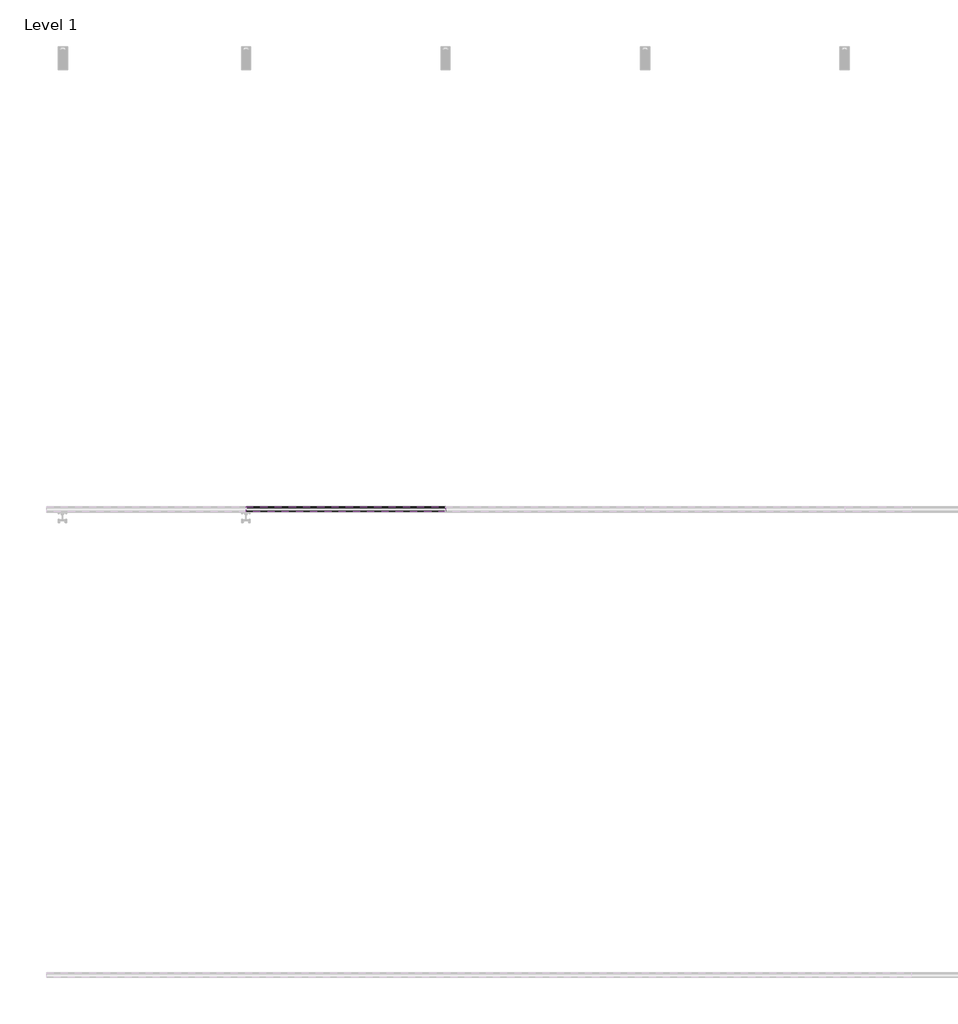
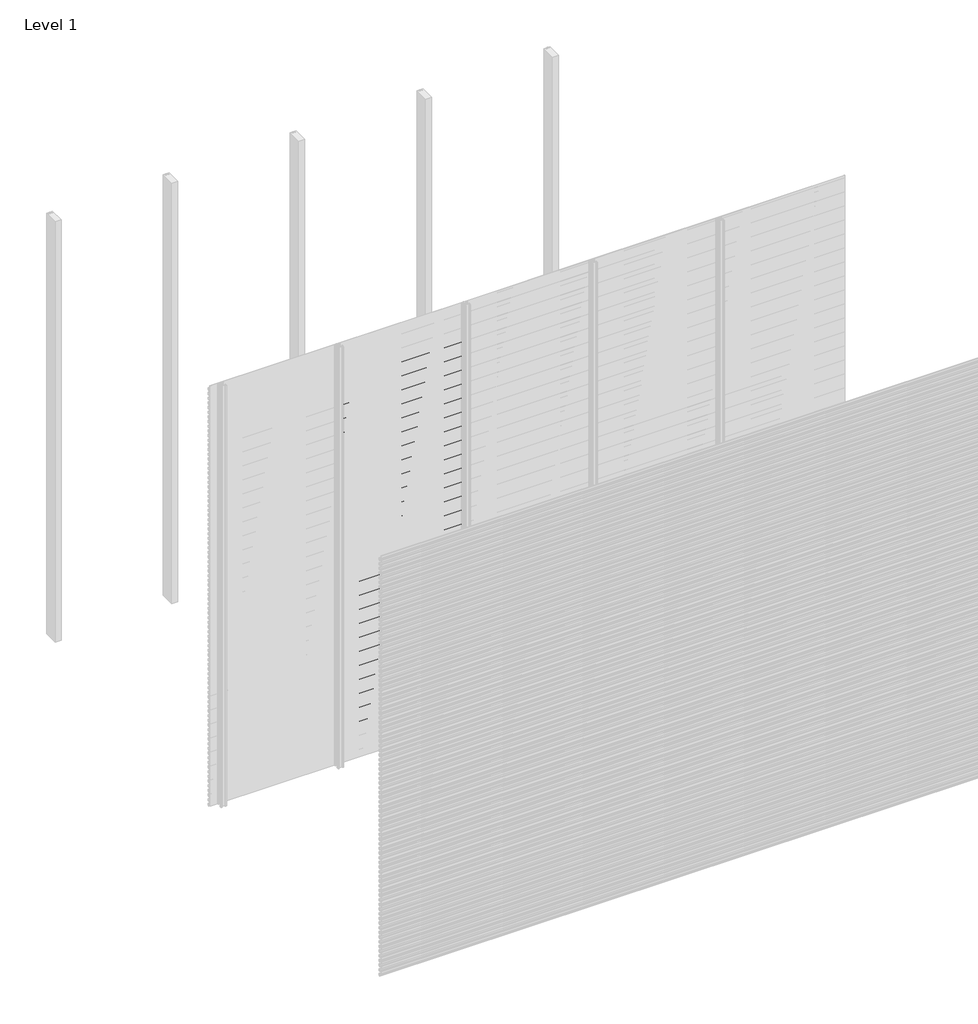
# One storey, part 25 of 96: 77 proxies.
"""IFC4 building model written with IfcOpenShell, lengths in millimetres."""

from ifc_helpers import new_model, si_unit, frame, origin, place, context, project, spatial, polyline, outline, extrude, element, save

model = new_model("IFC4")

# Units and contexts
model_context = context("Model", 3, world=origin())
ifc_project = project(units=[si_unit("LENGTHUNIT", "METRE", prefix="MILLI")], contexts=[model_context])

# Site, building, storey
site = spatial("IfcSite", under=ifc_project)
building = spatial("IfcBuilding", under=site)
storey = spatial("IfcBuildingStorey", under=building, Name="Level 1", Elevation=0.0)

# Proxies
placement = place(None, origin())
element("IfcBuildingElementProxy", 1, Name="Wall Sweeps", at=placement, inside=storey, context=model_context, shape_type="SweptSolid", body=[
    extrude(outline(polyline([(-41977.6, 2771.9655033), (-41977.6, 2757.6779188), (-41982.4114965, 2754.9), (-41982.4114965, 2756.1701706), (-41978.85, 2758.2264016), (-41978.85, 2771.2437382), (-41998.0, 2782.3000799), (-41998.0, 2797.2), (-41996.75, 2797.2), (-41996.75, 2783.0217609), (-41977.6, 2771.9655033)])), frame((857.1428571, 0.0, 0.0), z_axis=(1.0, 0.0, 0.0), x_axis=(0.0, 1.0, 0.0)), (0.0, 0.0, 1.0), 857.1428571),
])
element("IfcBuildingElementProxy", 2, Name="Wall Sweeps", at=placement, inside=storey, context=model_context, shape_type="SweptSolid", body=[
    extrude(outline(polyline([(-41977.6, 2738.6655033), (-41977.6, 2724.3779188), (-41982.4114965, 2721.6), (-41982.4114965, 2722.8701706), (-41978.85, 2724.9264016), (-41978.85, 2737.9437382), (-41998.0, 2749.0000799), (-41998.0, 2763.9), (-41996.75, 2763.9), (-41996.75, 2749.7217609), (-41977.6, 2738.6655033)])), frame((857.1428571, 0.0, 0.0), z_axis=(1.0, 0.0, 0.0), x_axis=(0.0, 1.0, 0.0)), (0.0, 0.0, 1.0), 857.1428571),
])
element("IfcBuildingElementProxy", 3, Name="Wall Sweeps", at=placement, inside=storey, context=model_context, shape_type="SweptSolid", body=[
    extrude(outline(polyline([(-41977.6, 2705.3655033), (-41977.6, 2691.0779188), (-41982.4114965, 2688.3), (-41982.4114965, 2689.5701706), (-41978.85, 2691.6264016), (-41978.85, 2704.6437382), (-41998.0, 2715.7000799), (-41998.0, 2730.6), (-41996.75, 2730.6), (-41996.75, 2716.4217609), (-41977.6, 2705.3655033)])), frame((857.1428571, 0.0, 0.0), z_axis=(1.0, 0.0, 0.0), x_axis=(0.0, 1.0, 0.0)), (0.0, 0.0, 1.0), 857.1428571),
])
element("IfcBuildingElementProxy", 4, Name="Wall Sweeps", at=placement, inside=storey, context=model_context, shape_type="SweptSolid", body=[
    extrude(outline(polyline([(-41977.6, 2672.0655033), (-41977.6, 2657.7779188), (-41982.4114965, 2655.0), (-41982.4114965, 2656.2701706), (-41978.85, 2658.3264016), (-41978.85, 2671.3437382), (-41998.0, 2682.4000799), (-41998.0, 2697.3), (-41996.75, 2697.3), (-41996.75, 2683.1217609), (-41977.6, 2672.0655033)])), frame((857.1428571, 0.0, 0.0), z_axis=(1.0, 0.0, 0.0), x_axis=(0.0, 1.0, 0.0)), (0.0, 0.0, 1.0), 857.1428571),
])
element("IfcBuildingElementProxy", 5, Name="Wall Sweeps", at=placement, inside=storey, context=model_context, shape_type="SweptSolid", body=[
    extrude(outline(polyline([(-41977.6, 2638.7655033), (-41977.6, 2624.4779188), (-41982.4114965, 2621.7), (-41982.4114965, 2622.9701706), (-41978.85, 2625.0264016), (-41978.85, 2638.0437382), (-41998.0, 2649.1000799), (-41998.0, 2664.0), (-41996.75, 2664.0), (-41996.75, 2649.8217609), (-41977.6, 2638.7655033)])), frame((857.1428571, 0.0, 0.0), z_axis=(1.0, 0.0, 0.0), x_axis=(0.0, 1.0, 0.0)), (0.0, 0.0, 1.0), 857.1428571),
])
element("IfcBuildingElementProxy", 6, Name="Wall Sweeps", at=placement, inside=storey, context=model_context, shape_type="SweptSolid", body=[
    extrude(outline(polyline([(-41977.6, 2605.4655033), (-41977.6, 2591.1779188), (-41982.4114965, 2588.4), (-41982.4114965, 2589.6701706), (-41978.85, 2591.7264016), (-41978.85, 2604.7437382), (-41998.0, 2615.8000799), (-41998.0, 2630.7), (-41996.75, 2630.7), (-41996.75, 2616.5217609), (-41977.6, 2605.4655033)])), frame((857.1428571, 0.0, 0.0), z_axis=(1.0, 0.0, 0.0), x_axis=(0.0, 1.0, 0.0)), (0.0, 0.0, 1.0), 857.1428571),
])
element("IfcBuildingElementProxy", 7, Name="Wall Sweeps", at=placement, inside=storey, context=model_context, shape_type="SweptSolid", body=[
    extrude(outline(polyline([(-41977.6, 2572.1655033), (-41977.6, 2557.8779188), (-41982.4114965, 2555.1), (-41982.4114965, 2556.3701706), (-41978.85, 2558.4264016), (-41978.85, 2571.4437382), (-41998.0, 2582.5000799), (-41998.0, 2597.4), (-41996.75, 2597.4), (-41996.75, 2583.2217609), (-41977.6, 2572.1655033)])), frame((857.1428571, 0.0, 0.0), z_axis=(1.0, 0.0, 0.0), x_axis=(0.0, 1.0, 0.0)), (0.0, 0.0, 1.0), 857.1428571),
])
element("IfcBuildingElementProxy", 8, Name="Wall Sweeps", at=placement, inside=storey, context=model_context, shape_type="SweptSolid", body=[
    extrude(outline(polyline([(-41977.6, 2538.8655033), (-41977.6, 2524.5779188), (-41982.4114965, 2521.8), (-41982.4114965, 2523.0701706), (-41978.85, 2525.1264016), (-41978.85, 2538.1437382), (-41998.0, 2549.2000799), (-41998.0, 2564.1), (-41996.75, 2564.1), (-41996.75, 2549.9217609), (-41977.6, 2538.8655033)])), frame((857.1428571, 0.0, 0.0), z_axis=(1.0, 0.0, 0.0), x_axis=(0.0, 1.0, 0.0)), (0.0, 0.0, 1.0), 857.1428571),
])
element("IfcBuildingElementProxy", 9, Name="Wall Sweeps", at=placement, inside=storey, context=model_context, shape_type="SweptSolid", body=[
    extrude(outline(polyline([(-41977.6, 2505.5655033), (-41977.6, 2491.2779188), (-41982.4114965, 2488.5), (-41982.4114965, 2489.7701706), (-41978.85, 2491.8264016), (-41978.85, 2504.8437382), (-41998.0, 2515.9000799), (-41998.0, 2530.8), (-41996.75, 2530.8), (-41996.75, 2516.6217609), (-41977.6, 2505.5655033)])), frame((857.1428571, 0.0, 0.0), z_axis=(1.0, 0.0, 0.0), x_axis=(0.0, 1.0, 0.0)), (0.0, 0.0, 1.0), 857.1428571),
])
element("IfcBuildingElementProxy", 10, Name="Wall Sweeps", at=placement, inside=storey, context=model_context, shape_type="SweptSolid", body=[
    extrude(outline(polyline([(-41977.6, 2472.2655033), (-41977.6, 2457.9779188), (-41982.4114965, 2455.2), (-41982.4114965, 2456.4701706), (-41978.85, 2458.5264016), (-41978.85, 2471.5437382), (-41998.0, 2482.6000799), (-41998.0, 2497.5), (-41996.75, 2497.5), (-41996.75, 2483.3217609), (-41977.6, 2472.2655033)])), frame((857.1428571, 0.0, 0.0), z_axis=(1.0, 0.0, 0.0), x_axis=(0.0, 1.0, 0.0)), (0.0, 0.0, 1.0), 857.1428571),
])
element("IfcBuildingElementProxy", 11, Name="Wall Sweeps", at=placement, inside=storey, context=model_context, shape_type="SweptSolid", body=[
    extrude(outline(polyline([(-41977.6, 2438.9655033), (-41977.6, 2424.6779188), (-41982.4114965, 2421.9), (-41982.4114965, 2423.1701706), (-41978.85, 2425.2264016), (-41978.85, 2438.2437382), (-41998.0, 2449.3000799), (-41998.0, 2464.2), (-41996.75, 2464.2), (-41996.75, 2450.0217609), (-41977.6, 2438.9655033)])), frame((857.1428571, 0.0, 0.0), z_axis=(1.0, 0.0, 0.0), x_axis=(0.0, 1.0, 0.0)), (0.0, 0.0, 1.0), 857.1428571),
])
element("IfcBuildingElementProxy", 12, Name="Wall Sweeps", at=placement, inside=storey, context=model_context, shape_type="SweptSolid", body=[
    extrude(outline(polyline([(-41977.6, 2405.6655033), (-41977.6, 2391.3779188), (-41982.4114965, 2388.6), (-41982.4114965, 2389.8701706), (-41978.85, 2391.9264016), (-41978.85, 2404.9437382), (-41998.0, 2416.0000799), (-41998.0, 2430.9), (-41996.75, 2430.9), (-41996.75, 2416.7217609), (-41977.6, 2405.6655033)])), frame((857.1428571, 0.0, 0.0), z_axis=(1.0, 0.0, 0.0), x_axis=(0.0, 1.0, 0.0)), (0.0, 0.0, 1.0), 857.1428571),
])
element("IfcBuildingElementProxy", 13, Name="Wall Sweeps", at=placement, inside=storey, context=model_context, shape_type="SweptSolid", body=[
    extrude(outline(polyline([(-41977.6, 2372.3655033), (-41977.6, 2358.0779188), (-41982.4114965, 2355.3), (-41982.4114965, 2356.5701706), (-41978.85, 2358.6264016), (-41978.85, 2371.6437382), (-41998.0, 2382.7000799), (-41998.0, 2397.6), (-41996.75, 2397.6), (-41996.75, 2383.4217609), (-41977.6, 2372.3655033)])), frame((857.1428571, 0.0, 0.0), z_axis=(1.0, 0.0, 0.0), x_axis=(0.0, 1.0, 0.0)), (0.0, 0.0, 1.0), 857.1428571),
])
element("IfcBuildingElementProxy", 14, Name="Wall Sweeps", at=placement, inside=storey, context=model_context, shape_type="SweptSolid", body=[
    extrude(outline(polyline([(-41977.6, 2339.0655033), (-41977.6, 2324.7779188), (-41982.4114965, 2322.0), (-41982.4114965, 2323.2701706), (-41978.85, 2325.3264016), (-41978.85, 2338.3437382), (-41998.0, 2349.4000799), (-41998.0, 2364.3), (-41996.75, 2364.3), (-41996.75, 2350.1217609), (-41977.6, 2339.0655033)])), frame((857.1428571, 0.0, 0.0), z_axis=(1.0, 0.0, 0.0), x_axis=(0.0, 1.0, 0.0)), (0.0, 0.0, 1.0), 857.1428571),
])
element("IfcBuildingElementProxy", 15, Name="Wall Sweeps", at=placement, inside=storey, context=model_context, shape_type="SweptSolid", body=[
    extrude(outline(polyline([(-41977.6, 2305.7655033), (-41977.6, 2291.4779188), (-41982.4114965, 2288.7), (-41982.4114965, 2289.9701706), (-41978.85, 2292.0264016), (-41978.85, 2305.0437382), (-41998.0, 2316.1000799), (-41998.0, 2331.0), (-41996.75, 2331.0), (-41996.75, 2316.8217609), (-41977.6, 2305.7655033)])), frame((857.1428571, 0.0, 0.0), z_axis=(1.0, 0.0, 0.0), x_axis=(0.0, 1.0, 0.0)), (0.0, 0.0, 1.0), 857.1428571),
])
element("IfcBuildingElementProxy", 16, Name="Wall Sweeps", at=placement, inside=storey, context=model_context, shape_type="SweptSolid", body=[
    extrude(outline(polyline([(-41977.6, 2272.4655033), (-41977.6, 2258.1779188), (-41982.4114965, 2255.4), (-41982.4114965, 2256.6701706), (-41978.85, 2258.7264016), (-41978.85, 2271.7437382), (-41998.0, 2282.8000799), (-41998.0, 2297.7), (-41996.75, 2297.7), (-41996.75, 2283.5217609), (-41977.6, 2272.4655033)])), frame((857.1428571, 0.0, 0.0), z_axis=(1.0, 0.0, 0.0), x_axis=(0.0, 1.0, 0.0)), (0.0, 0.0, 1.0), 857.1428571),
])
element("IfcBuildingElementProxy", 17, Name="Wall Sweeps", at=placement, inside=storey, context=model_context, shape_type="SweptSolid", body=[
    extrude(outline(polyline([(-41977.6, 2239.1655033), (-41977.6, 2224.8779188), (-41982.4114965, 2222.1), (-41982.4114965, 2223.3701706), (-41978.85, 2225.4264016), (-41978.85, 2238.4437382), (-41998.0, 2249.5000799), (-41998.0, 2264.4), (-41996.75, 2264.4), (-41996.75, 2250.2217609), (-41977.6, 2239.1655033)])), frame((857.1428571, 0.0, 0.0), z_axis=(1.0, 0.0, 0.0), x_axis=(0.0, 1.0, 0.0)), (0.0, 0.0, 1.0), 857.1428571),
])
element("IfcBuildingElementProxy", 18, Name="Wall Sweeps", at=placement, inside=storey, context=model_context, shape_type="SweptSolid", body=[
    extrude(outline(polyline([(-41977.6, 2205.8655033), (-41977.6, 2191.5779188), (-41982.4114965, 2188.8), (-41982.4114965, 2190.0701706), (-41978.85, 2192.1264016), (-41978.85, 2205.1437382), (-41998.0, 2216.2000799), (-41998.0, 2231.1), (-41996.75, 2231.1), (-41996.75, 2216.9217609), (-41977.6, 2205.8655033)])), frame((857.1428571, 0.0, 0.0), z_axis=(1.0, 0.0, 0.0), x_axis=(0.0, 1.0, 0.0)), (0.0, 0.0, 1.0), 857.1428571),
])
element("IfcBuildingElementProxy", 19, Name="Wall Sweeps", at=placement, inside=storey, context=model_context, shape_type="SweptSolid", body=[
    extrude(outline(polyline([(-41977.6, 2172.5655033), (-41977.6, 2158.2779188), (-41982.4114965, 2155.5), (-41982.4114965, 2156.7701706), (-41978.85, 2158.8264016), (-41978.85, 2171.8437382), (-41998.0, 2182.9000799), (-41998.0, 2197.8), (-41996.75, 2197.8), (-41996.75, 2183.6217609), (-41977.6, 2172.5655033)])), frame((857.1428571, 0.0, 0.0), z_axis=(1.0, 0.0, 0.0), x_axis=(0.0, 1.0, 0.0)), (0.0, 0.0, 1.0), 857.1428571),
])
element("IfcBuildingElementProxy", 20, Name="Wall Sweeps", at=placement, inside=storey, context=model_context, shape_type="SweptSolid", body=[
    extrude(outline(polyline([(-41977.6, 2139.2655033), (-41977.6, 2124.9779188), (-41982.4114965, 2122.2), (-41982.4114965, 2123.4701706), (-41978.85, 2125.5264016), (-41978.85, 2138.5437382), (-41998.0, 2149.6000799), (-41998.0, 2164.5), (-41996.75, 2164.5), (-41996.75, 2150.3217609), (-41977.6, 2139.2655033)])), frame((857.1428571, 0.0, 0.0), z_axis=(1.0, 0.0, 0.0), x_axis=(0.0, 1.0, 0.0)), (0.0, 0.0, 1.0), 857.1428571),
])
element("IfcBuildingElementProxy", 21, Name="Wall Sweeps", at=placement, inside=storey, context=model_context, shape_type="SweptSolid", body=[
    extrude(outline(polyline([(-41977.6, 2105.9655033), (-41977.6, 2091.6779188), (-41982.4114965, 2088.9), (-41982.4114965, 2090.1701706), (-41978.85, 2092.2264016), (-41978.85, 2105.2437382), (-41998.0, 2116.3000799), (-41998.0, 2131.2), (-41996.75, 2131.2), (-41996.75, 2117.0217609), (-41977.6, 2105.9655033)])), frame((857.1428571, 0.0, 0.0), z_axis=(1.0, 0.0, 0.0), x_axis=(0.0, 1.0, 0.0)), (0.0, 0.0, 1.0), 857.1428571),
])
element("IfcBuildingElementProxy", 22, Name="Wall Sweeps", at=placement, inside=storey, context=model_context, shape_type="SweptSolid", body=[
    extrude(outline(polyline([(-41977.6, 2072.6655033), (-41977.6, 2058.3779188), (-41982.4114965, 2055.6), (-41982.4114965, 2056.8701706), (-41978.85, 2058.9264016), (-41978.85, 2071.9437382), (-41998.0, 2083.0000799), (-41998.0, 2097.9), (-41996.75, 2097.9), (-41996.75, 2083.7217609), (-41977.6, 2072.6655033)])), frame((857.1428571, 0.0, 0.0), z_axis=(1.0, 0.0, 0.0), x_axis=(0.0, 1.0, 0.0)), (0.0, 0.0, 1.0), 857.1428571),
])
element("IfcBuildingElementProxy", 23, Name="Wall Sweeps", at=placement, inside=storey, context=model_context, shape_type="SweptSolid", body=[
    extrude(outline(polyline([(-41977.6, 2039.3655033), (-41977.6, 2025.0779188), (-41982.4114965, 2022.3), (-41982.4114965, 2023.5701706), (-41978.85, 2025.6264016), (-41978.85, 2038.6437382), (-41998.0, 2049.7000799), (-41998.0, 2064.6), (-41996.75, 2064.6), (-41996.75, 2050.4217609), (-41977.6, 2039.3655033)])), frame((857.1428571, 0.0, 0.0), z_axis=(1.0, 0.0, 0.0), x_axis=(0.0, 1.0, 0.0)), (0.0, 0.0, 1.0), 857.1428571),
])
element("IfcBuildingElementProxy", 24, Name="Wall Sweeps", at=placement, inside=storey, context=model_context, shape_type="SweptSolid", body=[
    extrude(outline(polyline([(-41977.6, 2006.0655033), (-41977.6, 1991.7779188), (-41982.4114965, 1989.0), (-41982.4114965, 1990.2701706), (-41978.85, 1992.3264016), (-41978.85, 2005.3437382), (-41998.0, 2016.4000799), (-41998.0, 2031.3), (-41996.75, 2031.3), (-41996.75, 2017.1217609), (-41977.6, 2006.0655033)])), frame((857.1428571, 0.0, 0.0), z_axis=(1.0, 0.0, 0.0), x_axis=(0.0, 1.0, 0.0)), (0.0, 0.0, 1.0), 857.1428571),
])
element("IfcBuildingElementProxy", 25, Name="Wall Sweeps", at=placement, inside=storey, context=model_context, shape_type="SweptSolid", body=[
    extrude(outline(polyline([(-41977.6, 1972.7655033), (-41977.6, 1958.4779188), (-41982.4114965, 1955.7), (-41982.4114965, 1956.9701706), (-41978.85, 1959.0264016), (-41978.85, 1972.0437382), (-41998.0, 1983.1000799), (-41998.0, 1998.0), (-41996.75, 1998.0), (-41996.75, 1983.8217609), (-41977.6, 1972.7655033)])), frame((857.1428571, 0.0, 0.0), z_axis=(1.0, 0.0, 0.0), x_axis=(0.0, 1.0, 0.0)), (0.0, 0.0, 1.0), 857.1428571),
])
element("IfcBuildingElementProxy", 26, Name="Wall Sweeps", at=placement, inside=storey, context=model_context, shape_type="SweptSolid", body=[
    extrude(outline(polyline([(-41977.6, 1939.4655033), (-41977.6, 1925.1779188), (-41982.4114965, 1922.4), (-41982.4114965, 1923.6701706), (-41978.85, 1925.7264016), (-41978.85, 1938.7437382), (-41998.0, 1949.8000799), (-41998.0, 1964.7), (-41996.75, 1964.7), (-41996.75, 1950.5217609), (-41977.6, 1939.4655033)])), frame((857.1428571, 0.0, 0.0), z_axis=(1.0, 0.0, 0.0), x_axis=(0.0, 1.0, 0.0)), (0.0, 0.0, 1.0), 857.1428571),
])
element("IfcBuildingElementProxy", 27, Name="Wall Sweeps", at=placement, inside=storey, context=model_context, shape_type="SweptSolid", body=[
    extrude(outline(polyline([(-41977.6, 1906.1655033), (-41977.6, 1891.8779188), (-41982.4114965, 1889.1), (-41982.4114965, 1890.3701706), (-41978.85, 1892.4264016), (-41978.85, 1905.4437382), (-41998.0, 1916.5000799), (-41998.0, 1931.4), (-41996.75, 1931.4), (-41996.75, 1917.2217609), (-41977.6, 1906.1655033)])), frame((857.1428571, 0.0, 0.0), z_axis=(1.0, 0.0, 0.0), x_axis=(0.0, 1.0, 0.0)), (0.0, 0.0, 1.0), 857.1428571),
])
element("IfcBuildingElementProxy", 28, Name="Wall Sweeps", at=placement, inside=storey, context=model_context, shape_type="SweptSolid", body=[
    extrude(outline(polyline([(-41977.6, 1872.8655033), (-41977.6, 1858.5779188), (-41982.4114965, 1855.8), (-41982.4114965, 1857.0701706), (-41978.85, 1859.1264016), (-41978.85, 1872.1437382), (-41998.0, 1883.2000799), (-41998.0, 1898.1), (-41996.75, 1898.1), (-41996.75, 1883.9217609), (-41977.6, 1872.8655033)])), frame((857.1428571, 0.0, 0.0), z_axis=(1.0, 0.0, 0.0), x_axis=(0.0, 1.0, 0.0)), (0.0, 0.0, 1.0), 857.1428571),
])
element("IfcBuildingElementProxy", 29, Name="Wall Sweeps", at=placement, inside=storey, context=model_context, shape_type="SweptSolid", body=[
    extrude(outline(polyline([(-41977.6, 1839.5655033), (-41977.6, 1825.2779188), (-41982.4114965, 1822.5), (-41982.4114965, 1823.7701706), (-41978.85, 1825.8264016), (-41978.85, 1838.8437382), (-41998.0, 1849.9000799), (-41998.0, 1864.8), (-41996.75, 1864.8), (-41996.75, 1850.6217609), (-41977.6, 1839.5655033)])), frame((857.1428571, 0.0, 0.0), z_axis=(1.0, 0.0, 0.0), x_axis=(0.0, 1.0, 0.0)), (0.0, 0.0, 1.0), 857.1428571),
])
element("IfcBuildingElementProxy", 30, Name="Wall Sweeps", at=placement, inside=storey, context=model_context, shape_type="SweptSolid", body=[
    extrude(outline(polyline([(-41977.6, 1806.2655033), (-41977.6, 1791.9779188), (-41982.4114965, 1789.2), (-41982.4114965, 1790.4701706), (-41978.85, 1792.5264016), (-41978.85, 1805.5437382), (-41998.0, 1816.6000799), (-41998.0, 1831.5), (-41996.75, 1831.5), (-41996.75, 1817.3217609), (-41977.6, 1806.2655033)])), frame((857.1428571, 0.0, 0.0), z_axis=(1.0, 0.0, 0.0), x_axis=(0.0, 1.0, 0.0)), (0.0, 0.0, 1.0), 857.1428571),
])
element("IfcBuildingElementProxy", 31, Name="Wall Sweeps", at=placement, inside=storey, context=model_context, shape_type="SweptSolid", body=[
    extrude(outline(polyline([(-41977.6, 1772.9655033), (-41977.6, 1758.6779188), (-41982.4114965, 1755.9), (-41982.4114965, 1757.1701706), (-41978.85, 1759.2264016), (-41978.85, 1772.2437382), (-41998.0, 1783.3000799), (-41998.0, 1798.2), (-41996.75, 1798.2), (-41996.75, 1784.0217609), (-41977.6, 1772.9655033)])), frame((857.1428571, 0.0, 0.0), z_axis=(1.0, 0.0, 0.0), x_axis=(0.0, 1.0, 0.0)), (0.0, 0.0, 1.0), 857.1428571),
])
element("IfcBuildingElementProxy", 32, Name="Wall Sweeps", at=placement, inside=storey, context=model_context, shape_type="SweptSolid", body=[
    extrude(outline(polyline([(-41977.6, 1739.6655033), (-41977.6, 1725.3779188), (-41982.4114965, 1722.6), (-41982.4114965, 1723.8701706), (-41978.85, 1725.9264016), (-41978.85, 1738.9437382), (-41998.0, 1750.0000799), (-41998.0, 1764.9), (-41996.75, 1764.9), (-41996.75, 1750.7217609), (-41977.6, 1739.6655033)])), frame((857.1428571, 0.0, 0.0), z_axis=(1.0, 0.0, 0.0), x_axis=(0.0, 1.0, 0.0)), (0.0, 0.0, 1.0), 857.1428571),
])
element("IfcBuildingElementProxy", 33, Name="Wall Sweeps", at=placement, inside=storey, context=model_context, shape_type="SweptSolid", body=[
    extrude(outline(polyline([(-41977.6, 1706.3655033), (-41977.6, 1692.0779188), (-41982.4114965, 1689.3), (-41982.4114965, 1690.5701706), (-41978.85, 1692.6264016), (-41978.85, 1705.6437382), (-41998.0, 1716.7000799), (-41998.0, 1731.6), (-41996.75, 1731.6), (-41996.75, 1717.4217609), (-41977.6, 1706.3655033)])), frame((857.1428571, 0.0, 0.0), z_axis=(1.0, 0.0, 0.0), x_axis=(0.0, 1.0, 0.0)), (0.0, 0.0, 1.0), 857.1428571),
])
element("IfcBuildingElementProxy", 34, Name="Wall Sweeps", at=placement, inside=storey, context=model_context, shape_type="SweptSolid", body=[
    extrude(outline(polyline([(-41977.6, 1673.0655033), (-41977.6, 1658.7779188), (-41982.4114965, 1656.0), (-41982.4114965, 1657.2701706), (-41978.85, 1659.3264016), (-41978.85, 1672.3437382), (-41998.0, 1683.4000799), (-41998.0, 1698.3), (-41996.75, 1698.3), (-41996.75, 1684.1217609), (-41977.6, 1673.0655033)])), frame((857.1428571, 0.0, 0.0), z_axis=(1.0, 0.0, 0.0), x_axis=(0.0, 1.0, 0.0)), (0.0, 0.0, 1.0), 857.1428571),
])
element("IfcBuildingElementProxy", 35, Name="Wall Sweeps", at=placement, inside=storey, context=model_context, shape_type="SweptSolid", body=[
    extrude(outline(polyline([(-41977.6, 1639.7655033), (-41977.6, 1625.4779188), (-41982.4114965, 1622.7), (-41982.4114965, 1623.9701706), (-41978.85, 1626.0264016), (-41978.85, 1639.0437382), (-41998.0, 1650.1000799), (-41998.0, 1665.0), (-41996.75, 1665.0), (-41996.75, 1650.8217609), (-41977.6, 1639.7655033)])), frame((857.1428571, 0.0, 0.0), z_axis=(1.0, 0.0, 0.0), x_axis=(0.0, 1.0, 0.0)), (0.0, 0.0, 1.0), 857.1428571),
])
element("IfcBuildingElementProxy", 36, Name="Wall Sweeps", at=placement, inside=storey, context=model_context, shape_type="SweptSolid", body=[
    extrude(outline(polyline([(-41977.6, 1606.4655033), (-41977.6, 1592.1779188), (-41982.4114965, 1589.4), (-41982.4114965, 1590.6701706), (-41978.85, 1592.7264016), (-41978.85, 1605.7437382), (-41998.0, 1616.8000799), (-41998.0, 1631.7), (-41996.75, 1631.7), (-41996.75, 1617.5217609), (-41977.6, 1606.4655033)])), frame((857.1428571, 0.0, 0.0), z_axis=(1.0, 0.0, 0.0), x_axis=(0.0, 1.0, 0.0)), (0.0, 0.0, 1.0), 857.1428571),
])
element("IfcBuildingElementProxy", 37, Name="Wall Sweeps", at=placement, inside=storey, context=model_context, shape_type="SweptSolid", body=[
    extrude(outline(polyline([(-41977.6, 1573.1655033), (-41977.6, 1558.8779188), (-41982.4114965, 1556.1), (-41982.4114965, 1557.3701706), (-41978.85, 1559.4264016), (-41978.85, 1572.4437382), (-41998.0, 1583.5000799), (-41998.0, 1598.4), (-41996.75, 1598.4), (-41996.75, 1584.2217609), (-41977.6, 1573.1655033)])), frame((857.1428571, 0.0, 0.0), z_axis=(1.0, 0.0, 0.0), x_axis=(0.0, 1.0, 0.0)), (0.0, 0.0, 1.0), 857.1428571),
])
element("IfcBuildingElementProxy", 38, Name="Wall Sweeps", at=placement, inside=storey, context=model_context, shape_type="SweptSolid", body=[
    extrude(outline(polyline([(-41977.6, 1539.8655033), (-41977.6, 1525.5779188), (-41982.4114965, 1522.8), (-41982.4114965, 1524.0701706), (-41978.85, 1526.1264016), (-41978.85, 1539.1437382), (-41998.0, 1550.2000799), (-41998.0, 1565.1), (-41996.75, 1565.1), (-41996.75, 1550.9217609), (-41977.6, 1539.8655033)])), frame((857.1428571, 0.0, 0.0), z_axis=(1.0, 0.0, 0.0), x_axis=(0.0, 1.0, 0.0)), (0.0, 0.0, 1.0), 857.1428571),
])
element("IfcBuildingElementProxy", 39, Name="Wall Sweeps", at=placement, inside=storey, context=model_context, shape_type="SweptSolid", body=[
    extrude(outline(polyline([(-41977.6, 1506.5655033), (-41977.6, 1492.2779188), (-41982.4114965, 1489.5), (-41982.4114965, 1490.7701706), (-41978.85, 1492.8264016), (-41978.85, 1505.8437382), (-41998.0, 1516.9000799), (-41998.0, 1531.8), (-41996.75, 1531.8), (-41996.75, 1517.6217609), (-41977.6, 1506.5655033)])), frame((857.1428571, 0.0, 0.0), z_axis=(1.0, 0.0, 0.0), x_axis=(0.0, 1.0, 0.0)), (0.0, 0.0, 1.0), 857.1428571),
])
element("IfcBuildingElementProxy", 40, Name="Wall Sweeps", at=placement, inside=storey, context=model_context, shape_type="SweptSolid", body=[
    extrude(outline(polyline([(-41977.6, 1473.2655033), (-41977.6, 1458.9779188), (-41982.4114965, 1456.2), (-41982.4114965, 1457.4701706), (-41978.85, 1459.5264016), (-41978.85, 1472.5437382), (-41998.0, 1483.6000799), (-41998.0, 1498.5), (-41996.75, 1498.5), (-41996.75, 1484.3217609), (-41977.6, 1473.2655033)])), frame((857.1428571, 0.0, 0.0), z_axis=(1.0, 0.0, 0.0), x_axis=(0.0, 1.0, 0.0)), (0.0, 0.0, 1.0), 857.1428571),
])
element("IfcBuildingElementProxy", 41, Name="Wall Sweeps", at=placement, inside=storey, context=model_context, shape_type="SweptSolid", body=[
    extrude(outline(polyline([(-41977.6, 1439.9655033), (-41977.6, 1425.6779188), (-41982.4114965, 1422.9), (-41982.4114965, 1424.1701706), (-41978.85, 1426.2264016), (-41978.85, 1439.2437382), (-41998.0, 1450.3000799), (-41998.0, 1465.2), (-41996.75, 1465.2), (-41996.75, 1451.0217609), (-41977.6, 1439.9655033)])), frame((857.1428571, 0.0, 0.0), z_axis=(1.0, 0.0, 0.0), x_axis=(0.0, 1.0, 0.0)), (0.0, 0.0, 1.0), 857.1428571),
])
element("IfcBuildingElementProxy", 42, Name="Wall Sweeps", at=placement, inside=storey, context=model_context, shape_type="SweptSolid", body=[
    extrude(outline(polyline([(-41977.6, 1406.6655033), (-41977.6, 1392.3779188), (-41982.4114965, 1389.6), (-41982.4114965, 1390.8701706), (-41978.85, 1392.9264016), (-41978.85, 1405.9437382), (-41998.0, 1417.0000799), (-41998.0, 1431.9), (-41996.75, 1431.9), (-41996.75, 1417.7217609), (-41977.6, 1406.6655033)])), frame((857.1428571, 0.0, 0.0), z_axis=(1.0, 0.0, 0.0), x_axis=(0.0, 1.0, 0.0)), (0.0, 0.0, 1.0), 857.1428571),
])
element("IfcBuildingElementProxy", 43, Name="Wall Sweeps", at=placement, inside=storey, context=model_context, shape_type="SweptSolid", body=[
    extrude(outline(polyline([(-41977.6, 1373.3655033), (-41977.6, 1359.0779188), (-41982.4114965, 1356.3), (-41982.4114965, 1357.5701706), (-41978.85, 1359.6264016), (-41978.85, 1372.6437382), (-41998.0, 1383.7000799), (-41998.0, 1398.6), (-41996.75, 1398.6), (-41996.75, 1384.4217609), (-41977.6, 1373.3655033)])), frame((857.1428571, 0.0, 0.0), z_axis=(1.0, 0.0, 0.0), x_axis=(0.0, 1.0, 0.0)), (0.0, 0.0, 1.0), 857.1428571),
])
element("IfcBuildingElementProxy", 44, Name="Wall Sweeps", at=placement, inside=storey, context=model_context, shape_type="SweptSolid", body=[
    extrude(outline(polyline([(-41977.6, 1340.0655033), (-41977.6, 1325.7779188), (-41982.4114965, 1323.0), (-41982.4114965, 1324.2701706), (-41978.85, 1326.3264016), (-41978.85, 1339.3437382), (-41998.0, 1350.4000799), (-41998.0, 1365.3), (-41996.75, 1365.3), (-41996.75, 1351.1217609), (-41977.6, 1340.0655033)])), frame((857.1428571, 0.0, 0.0), z_axis=(1.0, 0.0, 0.0), x_axis=(0.0, 1.0, 0.0)), (0.0, 0.0, 1.0), 857.1428571),
])
element("IfcBuildingElementProxy", 45, Name="Wall Sweeps", at=placement, inside=storey, context=model_context, shape_type="SweptSolid", body=[
    extrude(outline(polyline([(-41977.6, 1306.7655033), (-41977.6, 1292.4779188), (-41982.4114965, 1289.7), (-41982.4114965, 1290.9701706), (-41978.85, 1293.0264016), (-41978.85, 1306.0437382), (-41998.0, 1317.1000799), (-41998.0, 1332.0), (-41996.75, 1332.0), (-41996.75, 1317.8217609), (-41977.6, 1306.7655033)])), frame((857.1428571, 0.0, 0.0), z_axis=(1.0, 0.0, 0.0), x_axis=(0.0, 1.0, 0.0)), (0.0, 0.0, 1.0), 857.1428571),
])
element("IfcBuildingElementProxy", 46, Name="Wall Sweeps", at=placement, inside=storey, context=model_context, shape_type="SweptSolid", body=[
    extrude(outline(polyline([(-41977.6, 1273.4655033), (-41977.6, 1259.1779188), (-41982.4114965, 1256.4), (-41982.4114965, 1257.6701706), (-41978.85, 1259.7264016), (-41978.85, 1272.7437382), (-41998.0, 1283.8000799), (-41998.0, 1298.7), (-41996.75, 1298.7), (-41996.75, 1284.5217609), (-41977.6, 1273.4655033)])), frame((857.1428571, 0.0, 0.0), z_axis=(1.0, 0.0, 0.0), x_axis=(0.0, 1.0, 0.0)), (0.0, 0.0, 1.0), 857.1428571),
])
element("IfcBuildingElementProxy", 47, Name="Wall Sweeps", at=placement, inside=storey, context=model_context, shape_type="SweptSolid", body=[
    extrude(outline(polyline([(-41977.6, 1240.1655033), (-41977.6, 1225.8779188), (-41982.4114965, 1223.1), (-41982.4114965, 1224.3701706), (-41978.85, 1226.4264016), (-41978.85, 1239.4437382), (-41998.0, 1250.5000799), (-41998.0, 1265.4), (-41996.75, 1265.4), (-41996.75, 1251.2217609), (-41977.6, 1240.1655033)])), frame((857.1428571, 0.0, 0.0), z_axis=(1.0, 0.0, 0.0), x_axis=(0.0, 1.0, 0.0)), (0.0, 0.0, 1.0), 857.1428571),
])
element("IfcBuildingElementProxy", 48, Name="Wall Sweeps", at=placement, inside=storey, context=model_context, shape_type="SweptSolid", body=[
    extrude(outline(polyline([(-41977.6, 1206.8655033), (-41977.6, 1192.5779188), (-41982.4114965, 1189.8), (-41982.4114965, 1191.0701706), (-41978.85, 1193.1264016), (-41978.85, 1206.1437382), (-41998.0, 1217.2000799), (-41998.0, 1232.1), (-41996.75, 1232.1), (-41996.75, 1217.9217609), (-41977.6, 1206.8655033)])), frame((857.1428571, 0.0, 0.0), z_axis=(1.0, 0.0, 0.0), x_axis=(0.0, 1.0, 0.0)), (0.0, 0.0, 1.0), 857.1428571),
])
element("IfcBuildingElementProxy", 49, Name="Wall Sweeps", at=placement, inside=storey, context=model_context, shape_type="SweptSolid", body=[
    extrude(outline(polyline([(-41977.6, 1173.5655033), (-41977.6, 1159.2779188), (-41982.4114965, 1156.5), (-41982.4114965, 1157.7701706), (-41978.85, 1159.8264016), (-41978.85, 1172.8437382), (-41998.0, 1183.9000799), (-41998.0, 1198.8), (-41996.75, 1198.8), (-41996.75, 1184.6217609), (-41977.6, 1173.5655033)])), frame((857.1428571, 0.0, 0.0), z_axis=(1.0, 0.0, 0.0), x_axis=(0.0, 1.0, 0.0)), (0.0, 0.0, 1.0), 857.1428571),
])
element("IfcBuildingElementProxy", 50, Name="Wall Sweeps", at=placement, inside=storey, context=model_context, shape_type="SweptSolid", body=[
    extrude(outline(polyline([(-41977.6, 1140.2655033), (-41977.6, 1125.9779188), (-41982.4114965, 1123.2), (-41982.4114965, 1124.4701706), (-41978.85, 1126.5264016), (-41978.85, 1139.5437382), (-41998.0, 1150.6000799), (-41998.0, 1165.5), (-41996.75, 1165.5), (-41996.75, 1151.3217609), (-41977.6, 1140.2655033)])), frame((857.1428571, 0.0, 0.0), z_axis=(1.0, 0.0, 0.0), x_axis=(0.0, 1.0, 0.0)), (0.0, 0.0, 1.0), 857.1428571),
])
element("IfcBuildingElementProxy", 51, Name="Wall Sweeps", at=placement, inside=storey, context=model_context, shape_type="SweptSolid", body=[
    extrude(outline(polyline([(-41977.6, 1106.9655033), (-41977.6, 1092.6779188), (-41982.4114965, 1089.9), (-41982.4114965, 1091.1701706), (-41978.85, 1093.2264016), (-41978.85, 1106.2437382), (-41998.0, 1117.3000799), (-41998.0, 1132.2), (-41996.75, 1132.2), (-41996.75, 1118.0217609), (-41977.6, 1106.9655033)])), frame((857.1428571, 0.0, 0.0), z_axis=(1.0, 0.0, 0.0), x_axis=(0.0, 1.0, 0.0)), (0.0, 0.0, 1.0), 857.1428571),
])
element("IfcBuildingElementProxy", 52, Name="Wall Sweeps", at=placement, inside=storey, context=model_context, shape_type="SweptSolid", body=[
    extrude(outline(polyline([(-41977.6, 1073.6655033), (-41977.6, 1059.3779188), (-41982.4114965, 1056.6), (-41982.4114965, 1057.8701706), (-41978.85, 1059.9264016), (-41978.85, 1072.9437382), (-41998.0, 1084.0000799), (-41998.0, 1098.9), (-41996.75, 1098.9), (-41996.75, 1084.7217609), (-41977.6, 1073.6655033)])), frame((857.1428571, 0.0, 0.0), z_axis=(1.0, 0.0, 0.0), x_axis=(0.0, 1.0, 0.0)), (0.0, 0.0, 1.0), 857.1428571),
])
element("IfcBuildingElementProxy", 53, Name="Wall Sweeps", at=placement, inside=storey, context=model_context, shape_type="SweptSolid", body=[
    extrude(outline(polyline([(-41977.6, 1040.3655033), (-41977.6, 1026.0779188), (-41982.4114965, 1023.3), (-41982.4114965, 1024.5701706), (-41978.85, 1026.6264016), (-41978.85, 1039.6437382), (-41998.0, 1050.7000799), (-41998.0, 1065.6), (-41996.75, 1065.6), (-41996.75, 1051.4217609), (-41977.6, 1040.3655033)])), frame((857.1428571, 0.0, 0.0), z_axis=(1.0, 0.0, 0.0), x_axis=(0.0, 1.0, 0.0)), (0.0, 0.0, 1.0), 857.1428571),
])
element("IfcBuildingElementProxy", 54, Name="Wall Sweeps", at=placement, inside=storey, context=model_context, shape_type="SweptSolid", body=[
    extrude(outline(polyline([(-41977.6, 1007.0655033), (-41977.6, 992.7779188), (-41982.4114965, 990.0), (-41982.4114965, 991.2701706), (-41978.85, 993.3264016), (-41978.85, 1006.3437382), (-41998.0, 1017.4000799), (-41998.0, 1032.3), (-41996.75, 1032.3), (-41996.75, 1018.1217609), (-41977.6, 1007.0655033)])), frame((857.1428571, 0.0, 0.0), z_axis=(1.0, 0.0, 0.0), x_axis=(0.0, 1.0, 0.0)), (0.0, 0.0, 1.0), 857.1428571),
])
element("IfcBuildingElementProxy", 55, Name="Wall Sweeps", at=placement, inside=storey, context=model_context, shape_type="SweptSolid", body=[
    extrude(outline(polyline([(-41977.6, 973.7655033), (-41977.6, 959.4779188), (-41982.4114965, 956.7), (-41982.4114965, 957.9701706), (-41978.85, 960.0264016), (-41978.85, 973.0437382), (-41998.0, 984.1000799), (-41998.0, 999.0), (-41996.75, 999.0), (-41996.75, 984.8217609), (-41977.6, 973.7655033)])), frame((857.1428571, 0.0, 0.0), z_axis=(1.0, 0.0, 0.0), x_axis=(0.0, 1.0, 0.0)), (0.0, 0.0, 1.0), 857.1428571),
])
element("IfcBuildingElementProxy", 56, Name="Wall Sweeps", at=placement, inside=storey, context=model_context, shape_type="SweptSolid", body=[
    extrude(outline(polyline([(-41977.6, 940.4655033), (-41977.6, 926.1779188), (-41982.4114965, 923.4), (-41982.4114965, 924.6701706), (-41978.85, 926.7264016), (-41978.85, 939.7437382), (-41998.0, 950.8000799), (-41998.0, 965.7), (-41996.75, 965.7), (-41996.75, 951.5217609), (-41977.6, 940.4655033)])), frame((857.1428571, 0.0, 0.0), z_axis=(1.0, 0.0, 0.0), x_axis=(0.0, 1.0, 0.0)), (0.0, 0.0, 1.0), 857.1428571),
])
element("IfcBuildingElementProxy", 57, Name="Wall Sweeps", at=placement, inside=storey, context=model_context, shape_type="SweptSolid", body=[
    extrude(outline(polyline([(-41977.6, 907.1655033), (-41977.6, 892.8779188), (-41982.4114965, 890.1), (-41982.4114965, 891.3701706), (-41978.85, 893.4264016), (-41978.85, 906.4437382), (-41998.0, 917.5000799), (-41998.0, 932.4), (-41996.75, 932.4), (-41996.75, 918.2217609), (-41977.6, 907.1655033)])), frame((857.1428571, 0.0, 0.0), z_axis=(1.0, 0.0, 0.0), x_axis=(0.0, 1.0, 0.0)), (0.0, 0.0, 1.0), 857.1428571),
])
element("IfcBuildingElementProxy", 58, Name="Wall Sweeps", at=placement, inside=storey, context=model_context, shape_type="SweptSolid", body=[
    extrude(outline(polyline([(-41977.6, 873.8655033), (-41977.6, 859.5779188), (-41982.4114965, 856.8), (-41982.4114965, 858.0701706), (-41978.85, 860.1264016), (-41978.85, 873.1437382), (-41998.0, 884.2000799), (-41998.0, 899.1), (-41996.75, 899.1), (-41996.75, 884.9217609), (-41977.6, 873.8655033)])), frame((857.1428571, 0.0, 0.0), z_axis=(1.0, 0.0, 0.0), x_axis=(0.0, 1.0, 0.0)), (0.0, 0.0, 1.0), 857.1428571),
])
element("IfcBuildingElementProxy", 59, Name="Wall Sweeps", at=placement, inside=storey, context=model_context, shape_type="SweptSolid", body=[
    extrude(outline(polyline([(-41977.6, 840.5655033), (-41977.6, 826.2779188), (-41982.4114965, 823.5), (-41982.4114965, 824.7701706), (-41978.85, 826.8264016), (-41978.85, 839.8437382), (-41998.0, 850.9000799), (-41998.0, 865.8), (-41996.75, 865.8), (-41996.75, 851.6217609), (-41977.6, 840.5655033)])), frame((857.1428571, 0.0, 0.0), z_axis=(1.0, 0.0, 0.0), x_axis=(0.0, 1.0, 0.0)), (0.0, 0.0, 1.0), 857.1428571),
])
element("IfcBuildingElementProxy", 60, Name="Wall Sweeps", at=placement, inside=storey, context=model_context, shape_type="SweptSolid", body=[
    extrude(outline(polyline([(-41977.6, 807.2655033), (-41977.6, 792.9779188), (-41982.4114965, 790.2), (-41982.4114965, 791.4701706), (-41978.85, 793.5264016), (-41978.85, 806.5437382), (-41998.0, 817.6000799), (-41998.0, 832.5), (-41996.75, 832.5), (-41996.75, 818.3217609), (-41977.6, 807.2655033)])), frame((857.1428571, 0.0, 0.0), z_axis=(1.0, 0.0, 0.0), x_axis=(0.0, 1.0, 0.0)), (0.0, 0.0, 1.0), 857.1428571),
])
element("IfcBuildingElementProxy", 61, Name="Wall Sweeps", at=placement, inside=storey, context=model_context, shape_type="SweptSolid", body=[
    extrude(outline(polyline([(-41977.6, 773.9655033), (-41977.6, 759.6779188), (-41982.4114965, 756.9), (-41982.4114965, 758.1701706), (-41978.85, 760.2264016), (-41978.85, 773.2437382), (-41998.0, 784.3000799), (-41998.0, 799.2), (-41996.75, 799.2), (-41996.75, 785.0217609), (-41977.6, 773.9655033)])), frame((857.1428571, 0.0, 0.0), z_axis=(1.0, 0.0, 0.0), x_axis=(0.0, 1.0, 0.0)), (0.0, 0.0, 1.0), 857.1428571),
])
element("IfcBuildingElementProxy", 62, Name="Wall Sweeps", at=placement, inside=storey, context=model_context, shape_type="SweptSolid", body=[
    extrude(outline(polyline([(-41977.6, 740.6655033), (-41977.6, 726.3779188), (-41982.4114965, 723.6), (-41982.4114965, 724.8701706), (-41978.85, 726.9264016), (-41978.85, 739.9437382), (-41998.0, 751.0000799), (-41998.0, 765.9), (-41996.75, 765.9), (-41996.75, 751.7217609), (-41977.6, 740.6655033)])), frame((857.1428571, 0.0, 0.0), z_axis=(1.0, 0.0, 0.0), x_axis=(0.0, 1.0, 0.0)), (0.0, 0.0, 1.0), 857.1428571),
])
element("IfcBuildingElementProxy", 63, Name="Wall Sweeps", at=placement, inside=storey, context=model_context, shape_type="SweptSolid", body=[
    extrude(outline(polyline([(-41977.6, 707.3655033), (-41977.6, 693.0779188), (-41982.4114965, 690.3), (-41982.4114965, 691.5701706), (-41978.85, 693.6264016), (-41978.85, 706.6437382), (-41998.0, 717.7000799), (-41998.0, 732.6), (-41996.75, 732.6), (-41996.75, 718.4217609), (-41977.6, 707.3655033)])), frame((857.1428571, 0.0, 0.0), z_axis=(1.0, 0.0, 0.0), x_axis=(0.0, 1.0, 0.0)), (0.0, 0.0, 1.0), 857.1428571),
])
element("IfcBuildingElementProxy", 64, Name="Wall Sweeps", at=placement, inside=storey, context=model_context, shape_type="SweptSolid", body=[
    extrude(outline(polyline([(-41977.6, 674.0655033), (-41977.6, 659.7779188), (-41982.4114965, 657.0), (-41982.4114965, 658.2701706), (-41978.85, 660.3264016), (-41978.85, 673.3437382), (-41998.0, 684.4000799), (-41998.0, 699.3), (-41996.75, 699.3), (-41996.75, 685.1217609), (-41977.6, 674.0655033)])), frame((857.1428571, 0.0, 0.0), z_axis=(1.0, 0.0, 0.0), x_axis=(0.0, 1.0, 0.0)), (0.0, 0.0, 1.0), 857.1428571),
])
element("IfcBuildingElementProxy", 65, Name="Wall Sweeps", at=placement, inside=storey, context=model_context, shape_type="SweptSolid", body=[
    extrude(outline(polyline([(-41977.6, 640.7655033), (-41977.6, 626.4779188), (-41982.4114965, 623.7), (-41982.4114965, 624.9701706), (-41978.85, 627.0264016), (-41978.85, 640.0437382), (-41998.0, 651.1000799), (-41998.0, 666.0), (-41996.75, 666.0), (-41996.75, 651.8217609), (-41977.6, 640.7655033)])), frame((857.1428571, 0.0, 0.0), z_axis=(1.0, 0.0, 0.0), x_axis=(0.0, 1.0, 0.0)), (0.0, 0.0, 1.0), 857.1428571),
])
element("IfcBuildingElementProxy", 66, Name="Wall Sweeps", at=placement, inside=storey, context=model_context, shape_type="SweptSolid", body=[
    extrude(outline(polyline([(-41977.6, 607.4655033), (-41977.6, 593.1779188), (-41982.4114965, 590.4), (-41982.4114965, 591.6701706), (-41978.85, 593.7264016), (-41978.85, 606.7437382), (-41998.0, 617.8000799), (-41998.0, 632.7), (-41996.75, 632.7), (-41996.75, 618.5217609), (-41977.6, 607.4655033)])), frame((857.1428571, 0.0, 0.0), z_axis=(1.0, 0.0, 0.0), x_axis=(0.0, 1.0, 0.0)), (0.0, 0.0, 1.0), 857.1428571),
])
element("IfcBuildingElementProxy", 67, Name="Wall Sweeps", at=placement, inside=storey, context=model_context, shape_type="SweptSolid", body=[
    extrude(outline(polyline([(-41977.6, 574.1655033), (-41977.6, 559.8779188), (-41982.4114965, 557.1), (-41982.4114965, 558.3701706), (-41978.85, 560.4264016), (-41978.85, 573.4437382), (-41998.0, 584.5000799), (-41998.0, 599.4), (-41996.75, 599.4), (-41996.75, 585.2217609), (-41977.6, 574.1655033)])), frame((857.1428571, 0.0, 0.0), z_axis=(1.0, 0.0, 0.0), x_axis=(0.0, 1.0, 0.0)), (0.0, 0.0, 1.0), 857.1428571),
])
element("IfcBuildingElementProxy", 68, Name="Wall Sweeps", at=placement, inside=storey, context=model_context, shape_type="SweptSolid", body=[
    extrude(outline(polyline([(-41977.6, 540.8655033), (-41977.6, 526.5779188), (-41982.4114965, 523.8), (-41982.4114965, 525.0701706), (-41978.85, 527.1264016), (-41978.85, 540.1437382), (-41998.0, 551.2000799), (-41998.0, 566.1), (-41996.75, 566.1), (-41996.75, 551.9217609), (-41977.6, 540.8655033)])), frame((857.1428571, 0.0, 0.0), z_axis=(1.0, 0.0, 0.0), x_axis=(0.0, 1.0, 0.0)), (0.0, 0.0, 1.0), 857.1428571),
])
element("IfcBuildingElementProxy", 69, Name="Wall Sweeps", at=placement, inside=storey, context=model_context, shape_type="SweptSolid", body=[
    extrude(outline(polyline([(-41977.6, 507.5655033), (-41977.6, 493.2779188), (-41982.4114965, 490.5), (-41982.4114965, 491.7701706), (-41978.85, 493.8264016), (-41978.85, 506.8437382), (-41998.0, 517.9000799), (-41998.0, 532.8), (-41996.75, 532.8), (-41996.75, 518.6217609), (-41977.6, 507.5655033)])), frame((857.1428571, 0.0, 0.0), z_axis=(1.0, 0.0, 0.0), x_axis=(0.0, 1.0, 0.0)), (0.0, 0.0, 1.0), 857.1428571),
])
element("IfcBuildingElementProxy", 70, Name="Wall Sweeps", at=placement, inside=storey, context=model_context, shape_type="SweptSolid", body=[
    extrude(outline(polyline([(-41977.6, 474.2655033), (-41977.6, 459.9779188), (-41982.4114965, 457.2), (-41982.4114965, 458.4701706), (-41978.85, 460.5264016), (-41978.85, 473.5437382), (-41998.0, 484.6000799), (-41998.0, 499.5), (-41996.75, 499.5), (-41996.75, 485.3217609), (-41977.6, 474.2655033)])), frame((857.1428571, 0.0, 0.0), z_axis=(1.0, 0.0, 0.0), x_axis=(0.0, 1.0, 0.0)), (0.0, 0.0, 1.0), 857.1428571),
])
element("IfcBuildingElementProxy", 71, Name="Wall Sweeps", at=placement, inside=storey, context=model_context, shape_type="SweptSolid", body=[
    extrude(outline(polyline([(-41977.6, 440.9655033), (-41977.6, 426.6779188), (-41982.4114965, 423.9), (-41982.4114965, 425.1701706), (-41978.85, 427.2264016), (-41978.85, 440.2437382), (-41998.0, 451.3000799), (-41998.0, 466.2), (-41996.75, 466.2), (-41996.75, 452.0217609), (-41977.6, 440.9655033)])), frame((857.1428571, 0.0, 0.0), z_axis=(1.0, 0.0, 0.0), x_axis=(0.0, 1.0, 0.0)), (0.0, 0.0, 1.0), 857.1428571),
])
element("IfcBuildingElementProxy", 72, Name="Wall Sweeps", at=placement, inside=storey, context=model_context, shape_type="SweptSolid", body=[
    extrude(outline(polyline([(-41977.6, 407.6655033), (-41977.6, 393.3779188), (-41982.4114965, 390.6), (-41982.4114965, 391.8701706), (-41978.85, 393.9264016), (-41978.85, 406.9437382), (-41998.0, 418.0000799), (-41998.0, 432.9), (-41996.75, 432.9), (-41996.75, 418.7217609), (-41977.6, 407.6655033)])), frame((857.1428571, 0.0, 0.0), z_axis=(1.0, 0.0, 0.0), x_axis=(0.0, 1.0, 0.0)), (0.0, 0.0, 1.0), 857.1428571),
])
element("IfcBuildingElementProxy", 73, Name="Wall Sweeps", at=placement, inside=storey, context=model_context, shape_type="SweptSolid", body=[
    extrude(outline(polyline([(-41977.6, 374.3655033), (-41977.6, 360.0779188), (-41982.4114965, 357.3), (-41982.4114965, 358.5701706), (-41978.85, 360.6264016), (-41978.85, 373.6437382), (-41998.0, 384.7000799), (-41998.0, 399.6), (-41996.75, 399.6), (-41996.75, 385.4217609), (-41977.6, 374.3655033)])), frame((857.1428571, 0.0, 0.0), z_axis=(1.0, 0.0, 0.0), x_axis=(0.0, 1.0, 0.0)), (0.0, 0.0, 1.0), 857.1428571),
])
element("IfcBuildingElementProxy", 74, Name="Wall Sweeps", at=placement, inside=storey, context=model_context, shape_type="SweptSolid", body=[
    extrude(outline(polyline([(-41977.6, 341.0655033), (-41977.6, 326.7779188), (-41982.4114965, 324.0), (-41982.4114965, 325.2701706), (-41978.85, 327.3264016), (-41978.85, 340.3437382), (-41998.0, 351.4000799), (-41998.0, 366.3), (-41996.75, 366.3), (-41996.75, 352.1217609), (-41977.6, 341.0655033)])), frame((857.1428571, 0.0, 0.0), z_axis=(1.0, 0.0, 0.0), x_axis=(0.0, 1.0, 0.0)), (0.0, 0.0, 1.0), 857.1428571),
])
element("IfcBuildingElementProxy", 75, Name="Wall Sweeps", at=placement, inside=storey, context=model_context, shape_type="SweptSolid", body=[
    extrude(outline(polyline([(-41977.6, 307.7655033), (-41977.6, 293.4779188), (-41982.4114965, 290.7), (-41982.4114965, 291.9701706), (-41978.85, 294.0264016), (-41978.85, 307.0437382), (-41998.0, 318.1000799), (-41998.0, 333.0), (-41996.75, 333.0), (-41996.75, 318.8217609), (-41977.6, 307.7655033)])), frame((857.1428571, 0.0, 0.0), z_axis=(1.0, 0.0, 0.0), x_axis=(0.0, 1.0, 0.0)), (0.0, 0.0, 1.0), 857.1428571),
])
element("IfcBuildingElementProxy", 76, Name="Wall Sweeps", at=placement, inside=storey, context=model_context, shape_type="SweptSolid", body=[
    extrude(outline(polyline([(-41977.6, 274.4655033), (-41977.6, 260.1779188), (-41982.4114965, 257.4), (-41982.4114965, 258.6701706), (-41978.85, 260.7264016), (-41978.85, 273.7437382), (-41998.0, 284.8000799), (-41998.0, 299.7), (-41996.75, 299.7), (-41996.75, 285.5217609), (-41977.6, 274.4655033)])), frame((857.1428571, 0.0, 0.0), z_axis=(1.0, 0.0, 0.0), x_axis=(0.0, 1.0, 0.0)), (0.0, 0.0, 1.0), 857.1428571),
])
element("IfcBuildingElementProxy", 77, Name="Wall Sweeps", at=placement, inside=storey, context=model_context, shape_type="SweptSolid", body=[
    extrude(outline(polyline([(-41977.6, 241.1655033), (-41977.6, 226.8779188), (-41982.4114965, 224.1), (-41982.4114965, 225.3701706), (-41978.85, 227.4264016), (-41978.85, 240.4437382), (-41998.0, 251.5000799), (-41998.0, 266.4), (-41996.75, 266.4), (-41996.75, 252.2217609), (-41977.6, 241.1655033)])), frame((857.1428571, 0.0, 0.0), z_axis=(1.0, 0.0, 0.0), x_axis=(0.0, 1.0, 0.0)), (0.0, 0.0, 1.0), 857.1428571),
])

save(model, "model.ifc")
